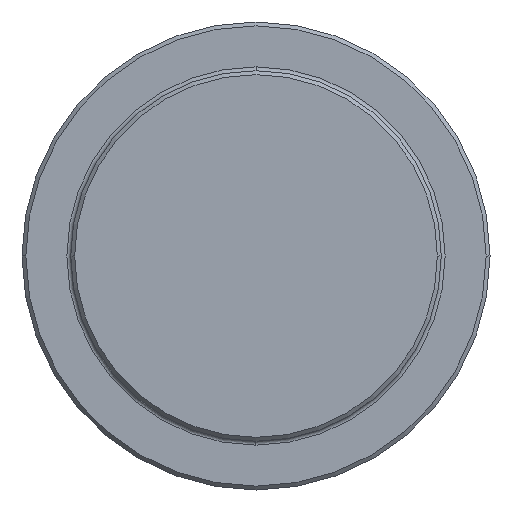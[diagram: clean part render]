
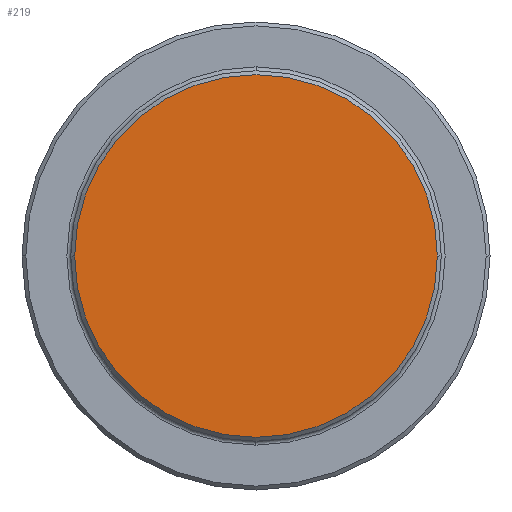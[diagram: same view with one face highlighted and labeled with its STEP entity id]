
A CAD part, left-side view. The second image highlights one B-rep face of the part: STEP entity #219.
In plain terms, the highlighted planar face has unit normal (-1, 0, 0).
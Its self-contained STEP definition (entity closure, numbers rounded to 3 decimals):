
#219=ADVANCED_FACE('',(#463),#464,.T.);
#463=FACE_OUTER_BOUND('',#731,.T.);
#464=PLANE('',#732);
#731=EDGE_LOOP('',(#1274,#1275));
#732=AXIS2_PLACEMENT_3D('',#1276,#1277,#1278);
#1274=ORIENTED_EDGE('',*,*,#1673,.F.);
#1275=ORIENTED_EDGE('',*,*,#1521,.F.);
#1276=CARTESIAN_POINT('',(0.,-4.75,0.0));
#1277=DIRECTION('',(-1.0,0.0,0.0));
#1278=DIRECTION('',(0.0,0.0,1.0));
#1521=EDGE_CURVE('',#1795,#1798,#1799,.T.);
#1673=EDGE_CURVE('',#1798,#1795,#2012,.T.);
#1795=VERTEX_POINT('',#2160);
#1798=VERTEX_POINT('',#2164);
#1799=CIRCLE('',#2165,9.3);
#2012=CIRCLE('',#2415,9.3);
#2160=CARTESIAN_POINT('',(0.,9.3,0.));
#2164=CARTESIAN_POINT('',(0.,-9.3,0.));
#2165=AXIS2_PLACEMENT_3D('',#2616,#2617,#2618);
#2415=AXIS2_PLACEMENT_3D('',#2857,#2858,#2859);
#2616=CARTESIAN_POINT('',(0.,0.0,0.0));
#2617=DIRECTION('',(1.0,0.0,0.0));
#2618=DIRECTION('',(0.0,1.0,0.0));
#2857=CARTESIAN_POINT('',(0.,0.0,0.0));
#2858=DIRECTION('',(1.0,0.0,0.0));
#2859=DIRECTION('',(0.0,1.0,0.0));
